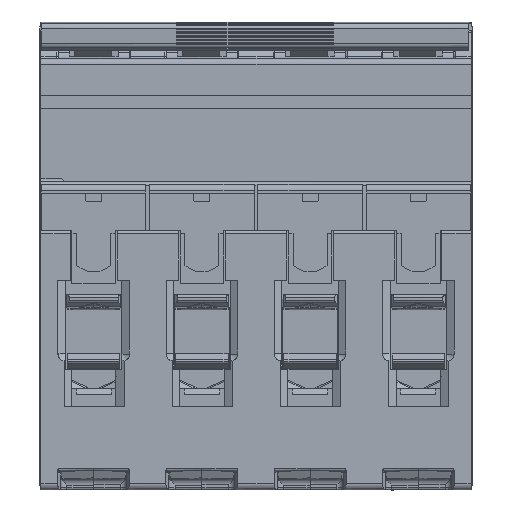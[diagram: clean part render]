
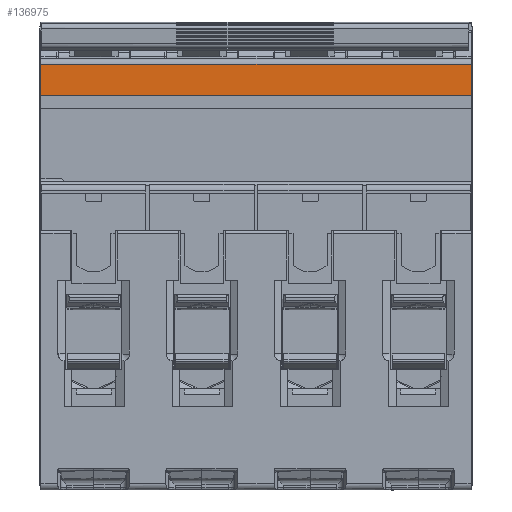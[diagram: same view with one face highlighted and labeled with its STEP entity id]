
A CAD part, front view. The second image highlights one B-rep face of the part: STEP entity #136975.
In plain terms, the highlighted planar face has unit normal (0, -1, 0).
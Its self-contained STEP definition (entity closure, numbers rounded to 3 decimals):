
#6728 = EDGE_CURVE ( 'NONE', #42181, #54883, #40896, .T. ) ;
#8096 = LINE ( 'NONE', #51349, #110608 ) ;
#12490 = ORIENTED_EDGE ( 'NONE', *, *, #170382, .T. ) ;
#19654 = CARTESIAN_POINT ( 'NONE',  ( 66.443, -14.233, 31.649 ) ) ;
#19836 = EDGE_CURVE ( 'NONE', #203353, #54883, #135883, .T. ) ;
#35624 = CARTESIAN_POINT ( 'NONE',  ( 13.843, -14.233, 12.549 ) ) ;
#40896 = LINE ( 'NONE', #42271, #119123 ) ;
#41452 = DIRECTION ( 'NONE',  ( 0., 0., -1. ) ) ;
#42181 = VERTEX_POINT ( 'NONE', #19654 ) ;
#42271 = CARTESIAN_POINT ( 'NONE',  ( 66.443, -14.233, -31.351 ) ) ;
#49436 = ORIENTED_EDGE ( 'NONE', *, *, #19836, .T. ) ;
#51349 = CARTESIAN_POINT ( 'NONE',  ( -3.557, -14.233, -31.351 ) ) ;
#54883 = VERTEX_POINT ( 'NONE', #171701 ) ;
#55012 = DIRECTION ( 'NONE',  ( 1., 0., 0. ) ) ;
#56186 = LINE ( 'NONE', #233009, #152418 ) ;
#57822 = AXIS2_PLACEMENT_3D ( 'NONE', #35624, #170078, #55012 ) ;
#59329 = DIRECTION ( 'NONE',  ( 1., 0., 0. ) ) ;
#60129 = ORIENTED_EDGE ( 'NONE', *, *, #6728, .F. ) ;
#89154 = DIRECTION ( 'NONE',  ( 0., 0., 1. ) ) ;
#110608 = VECTOR ( 'NONE', #89154, 1000. ) ;
#113770 = CARTESIAN_POINT ( 'NONE',  ( -3.557, -14.233, 31.649 ) ) ;
#119123 = VECTOR ( 'NONE', #41452, 1000. ) ;
#129853 = VECTOR ( 'NONE', #59329, 1000. ) ;
#135883 = LINE ( 'NONE', #155154, #129853 ) ;
#136975 = ADVANCED_FACE ( 'NONE', ( #204472 ), #207990, .T. ) ;
#152418 = VECTOR ( 'NONE', #176427, 1000. ) ;
#155154 = CARTESIAN_POINT ( 'NONE',  ( 13.843, -14.233, 26.649 ) ) ;
#165006 = EDGE_LOOP ( 'NONE', ( #49436, #60129, #12490, #218307 ) ) ;
#170078 = DIRECTION ( 'NONE',  ( 0., -1., 0. ) ) ;
#170382 = EDGE_CURVE ( 'NONE', #42181, #223224, #56186, .T. ) ;
#171701 = CARTESIAN_POINT ( 'NONE',  ( 66.443, -14.233, 26.649 ) ) ;
#175919 = EDGE_CURVE ( 'NONE', #203353, #223224, #8096, .T. ) ;
#176427 = DIRECTION ( 'NONE',  ( -1., 0., 0. ) ) ;
#203353 = VERTEX_POINT ( 'NONE', #211204 ) ;
#204472 = FACE_OUTER_BOUND ( 'NONE', #165006, .T. ) ;
#207990 = PLANE ( 'NONE',  #57822 ) ;
#211204 = CARTESIAN_POINT ( 'NONE',  ( -3.557, -14.233, 26.649 ) ) ;
#218307 = ORIENTED_EDGE ( 'NONE', *, *, #175919, .F. ) ;
#223224 = VERTEX_POINT ( 'NONE', #113770 ) ;
#233009 = CARTESIAN_POINT ( 'NONE',  ( 13.843, -14.233, 31.649 ) ) ;
